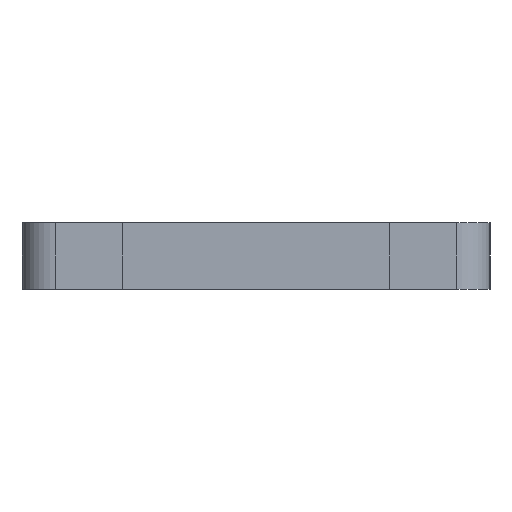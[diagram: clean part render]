
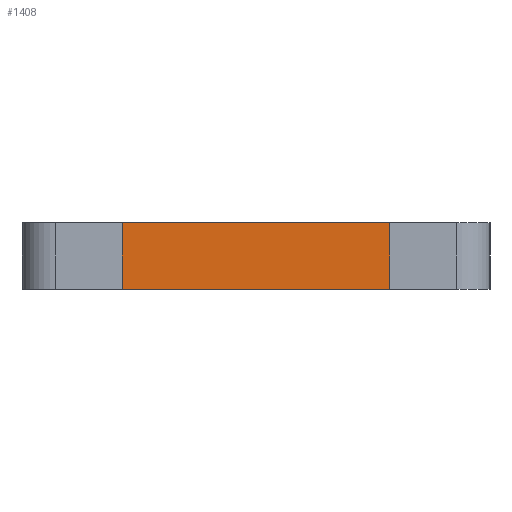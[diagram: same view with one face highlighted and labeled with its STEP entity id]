
A CAD part, left-side view. The second image highlights one B-rep face of the part: STEP entity #1408.
In plain terms, the highlighted planar face has unit normal (-1, 0, 0).
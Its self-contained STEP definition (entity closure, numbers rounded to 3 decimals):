
#44 = PLANE('',#45);
#45 = AXIS2_PLACEMENT_3D('',#46,#47,#48);
#46 = CARTESIAN_POINT('',(0.,0.,0.));
#47 = DIRECTION('',(0.,0.,1.));
#48 = DIRECTION('',(1.,0.,-0.));
#100 = PLANE('',#101);
#101 = AXIS2_PLACEMENT_3D('',#102,#103,#104);
#102 = CARTESIAN_POINT('',(0.,0.,2.));
#103 = DIRECTION('',(0.,0.,1.));
#104 = DIRECTION('',(1.,0.,-0.));
#664 = VERTEX_POINT('',#665);
#665 = CARTESIAN_POINT('',(-22.,4.,0.));
#679 = PLANE('',#680);
#680 = AXIS2_PLACEMENT_3D('',#681,#682,#683);
#681 = CARTESIAN_POINT('',(-22.,4.,0.));
#682 = DIRECTION('',(0.,1.,0.));
#683 = DIRECTION('',(0.,0.,1.));
#691 = EDGE_CURVE('',#692,#664,#694,.T.);
#692 = VERTEX_POINT('',#693);
#693 = CARTESIAN_POINT('',(-22.,-4.,0.));
#694 = SURFACE_CURVE('',#695,(#699,#706),.PCURVE_S1.);
#695 = LINE('',#696,#697);
#696 = CARTESIAN_POINT('',(-22.,-4.,0.));
#697 = VECTOR('',#698,1.);
#698 = DIRECTION('',(0.,1.,0.));
#699 = PCURVE('',#44,#700);
#700 = DEFINITIONAL_REPRESENTATION('',(#701),#705);
#701 = LINE('',#702,#703);
#702 = CARTESIAN_POINT('',(-22.,-4.));
#703 = VECTOR('',#704,1.);
#704 = DIRECTION('',(0.,1.));
#705 = ( GEOMETRIC_REPRESENTATION_CONTEXT(2) 
PARAMETRIC_REPRESENTATION_CONTEXT() REPRESENTATION_CONTEXT('2D SPACE',''
  ) );
#706 = PCURVE('',#707,#712);
#707 = PLANE('',#708);
#708 = AXIS2_PLACEMENT_3D('',#709,#710,#711);
#709 = CARTESIAN_POINT('',(-22.,-4.,0.));
#710 = DIRECTION('',(1.,0.,0.));
#711 = DIRECTION('',(0.,0.,1.));
#712 = DEFINITIONAL_REPRESENTATION('',(#713),#717);
#713 = LINE('',#714,#715);
#714 = CARTESIAN_POINT('',(0.,0.));
#715 = VECTOR('',#716,1.);
#716 = DIRECTION('',(0.,-1.));
#717 = ( GEOMETRIC_REPRESENTATION_CONTEXT(2) 
PARAMETRIC_REPRESENTATION_CONTEXT() REPRESENTATION_CONTEXT('2D SPACE',''
  ) );
#735 = PLANE('',#736);
#736 = AXIS2_PLACEMENT_3D('',#737,#738,#739);
#737 = CARTESIAN_POINT('',(-22.,-4.,0.));
#738 = DIRECTION('',(0.,1.,0.));
#739 = DIRECTION('',(0.,0.,1.));
#1268 = VERTEX_POINT('',#1269);
#1269 = CARTESIAN_POINT('',(-22.,4.,2.));
#1290 = EDGE_CURVE('',#1291,#1268,#1293,.T.);
#1291 = VERTEX_POINT('',#1292);
#1292 = CARTESIAN_POINT('',(-22.,-4.,2.));
#1293 = SURFACE_CURVE('',#1294,(#1298,#1305),.PCURVE_S1.);
#1294 = LINE('',#1295,#1296);
#1295 = CARTESIAN_POINT('',(-22.,-4.,2.));
#1296 = VECTOR('',#1297,1.);
#1297 = DIRECTION('',(0.,1.,0.));
#1298 = PCURVE('',#100,#1299);
#1299 = DEFINITIONAL_REPRESENTATION('',(#1300),#1304);
#1300 = LINE('',#1301,#1302);
#1301 = CARTESIAN_POINT('',(-22.,-4.));
#1302 = VECTOR('',#1303,1.);
#1303 = DIRECTION('',(0.,1.));
#1304 = ( GEOMETRIC_REPRESENTATION_CONTEXT(2) 
PARAMETRIC_REPRESENTATION_CONTEXT() REPRESENTATION_CONTEXT('2D SPACE',''
  ) );
#1305 = PCURVE('',#707,#1306);
#1306 = DEFINITIONAL_REPRESENTATION('',(#1307),#1311);
#1307 = LINE('',#1308,#1309);
#1308 = CARTESIAN_POINT('',(2.,0.));
#1309 = VECTOR('',#1310,1.);
#1310 = DIRECTION('',(0.,-1.));
#1311 = ( GEOMETRIC_REPRESENTATION_CONTEXT(2) 
PARAMETRIC_REPRESENTATION_CONTEXT() REPRESENTATION_CONTEXT('2D SPACE',''
  ) );
#1386 = EDGE_CURVE('',#692,#1291,#1387,.T.);
#1387 = SURFACE_CURVE('',#1388,(#1392,#1399),.PCURVE_S1.);
#1388 = LINE('',#1389,#1390);
#1389 = CARTESIAN_POINT('',(-22.,-4.,0.));
#1390 = VECTOR('',#1391,1.);
#1391 = DIRECTION('',(0.,0.,1.));
#1392 = PCURVE('',#735,#1393);
#1393 = DEFINITIONAL_REPRESENTATION('',(#1394),#1398);
#1394 = LINE('',#1395,#1396);
#1395 = CARTESIAN_POINT('',(0.,0.));
#1396 = VECTOR('',#1397,1.);
#1397 = DIRECTION('',(1.,0.));
#1398 = ( GEOMETRIC_REPRESENTATION_CONTEXT(2) 
PARAMETRIC_REPRESENTATION_CONTEXT() REPRESENTATION_CONTEXT('2D SPACE',''
  ) );
#1399 = PCURVE('',#707,#1400);
#1400 = DEFINITIONAL_REPRESENTATION('',(#1401),#1405);
#1401 = LINE('',#1402,#1403);
#1402 = CARTESIAN_POINT('',(0.,0.));
#1403 = VECTOR('',#1404,1.);
#1404 = DIRECTION('',(1.,0.));
#1405 = ( GEOMETRIC_REPRESENTATION_CONTEXT(2) 
PARAMETRIC_REPRESENTATION_CONTEXT() REPRESENTATION_CONTEXT('2D SPACE',''
  ) );
#1408 = ADVANCED_FACE('',(#1409),#707,.F.);
#1409 = FACE_BOUND('',#1410,.F.);
#1410 = EDGE_LOOP('',(#1411,#1412,#1413,#1434));
#1411 = ORIENTED_EDGE('',*,*,#1386,.F.);
#1412 = ORIENTED_EDGE('',*,*,#691,.T.);
#1413 = ORIENTED_EDGE('',*,*,#1414,.T.);
#1414 = EDGE_CURVE('',#664,#1268,#1415,.T.);
#1415 = SURFACE_CURVE('',#1416,(#1420,#1427),.PCURVE_S1.);
#1416 = LINE('',#1417,#1418);
#1417 = CARTESIAN_POINT('',(-22.,4.,0.));
#1418 = VECTOR('',#1419,1.);
#1419 = DIRECTION('',(0.,0.,1.));
#1420 = PCURVE('',#707,#1421);
#1421 = DEFINITIONAL_REPRESENTATION('',(#1422),#1426);
#1422 = LINE('',#1423,#1424);
#1423 = CARTESIAN_POINT('',(0.,-8.));
#1424 = VECTOR('',#1425,1.);
#1425 = DIRECTION('',(1.,0.));
#1426 = ( GEOMETRIC_REPRESENTATION_CONTEXT(2) 
PARAMETRIC_REPRESENTATION_CONTEXT() REPRESENTATION_CONTEXT('2D SPACE',''
  ) );
#1427 = PCURVE('',#679,#1428);
#1428 = DEFINITIONAL_REPRESENTATION('',(#1429),#1433);
#1429 = LINE('',#1430,#1431);
#1430 = CARTESIAN_POINT('',(0.,0.));
#1431 = VECTOR('',#1432,1.);
#1432 = DIRECTION('',(1.,0.));
#1433 = ( GEOMETRIC_REPRESENTATION_CONTEXT(2) 
PARAMETRIC_REPRESENTATION_CONTEXT() REPRESENTATION_CONTEXT('2D SPACE',''
  ) );
#1434 = ORIENTED_EDGE('',*,*,#1290,.F.);
